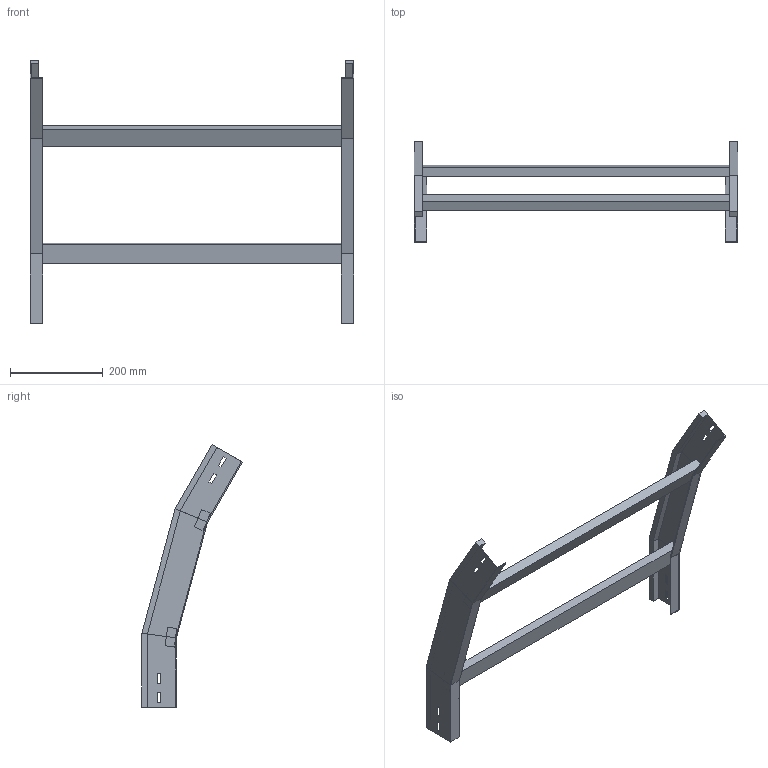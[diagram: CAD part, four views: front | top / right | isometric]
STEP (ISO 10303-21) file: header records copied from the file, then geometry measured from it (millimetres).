
FILE_DESCRIPTION (( 'STEP AP214' ), '1' );
FILE_NAME ('35B5C700.step', '2025-02-21T14:49:31', ( '' ), ( '' ), 'SwSTEP 2.0', 'SolidWorks 2023', '' );
FILE_SCHEMA (( 'AUTOMOTIVE_DESIGN' ));
Length unit declared in the file: millimetre
Products named in the file (3): 35B5C700; LONGH.DISCESA_30°_H75_R500; TRAVERSINO_700
Assembly tree (5 placements, depth 2):
  35B5C700
    LONGH.DISCESA_30°_H75_R500  x2
    TRAVERSINO_700  x3
Bounding box: 700 x 217.03 x 567.58 mm (x, y, z)
Volume: 2147002.1 mm3; surface area: 529848.5 mm2
Topology: 5 solids, 5 shells, 102 faces, 244 edges, 152 vertices
Faces by surface type: plane 102
Entity records: 1480 total; most frequent: CARTESIAN_POINT 244, ORIENTED_EDGE 232, DIRECTION 228, VECTOR 116, EDGE_CURVE 116, LINE 116, VERTEX_POINT 72, EDGE_LOOP 56
